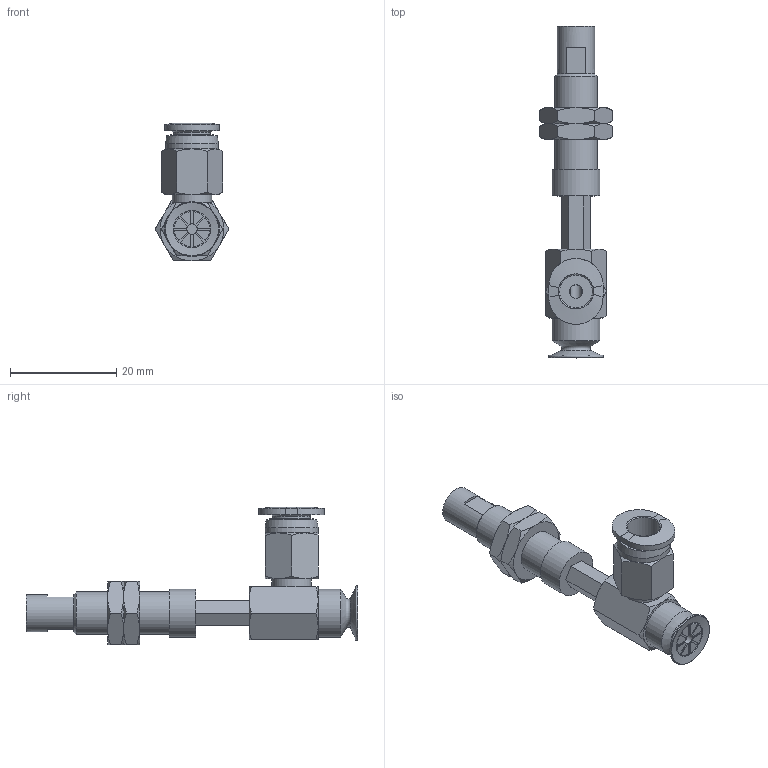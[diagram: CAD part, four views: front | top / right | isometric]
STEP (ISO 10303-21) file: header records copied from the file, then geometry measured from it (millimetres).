
FILE_DESCRIPTION(('STEP AP203'),'1');
FILE_NAME('-O.stp','2025-03-13T02:57:41',(' '),(' '),'Spatial InterOp 3D',' ',' ');
FILE_SCHEMA(('CONFIG_CONTROL_DESIGN'));
Length unit declared in the file: millimetre
Products named in the file (7): BNABPAYH-10B-10-※-O; NAPATH-10A-10--M; NAPATH-10A-10--F; Nut-10A-S; CONNECTOR-10A-10-PA; PC-C_06-M5; BPAG-10B-※
Assembly tree (7 placements, depth 2):
  BNABPAYH-10B-10-※-O
    NAPATH-10A-10--M
    NAPATH-10A-10--F
    Nut-10A-S  x2
    CONNECTOR-10A-10-PA
    PC-C_06-M5
    BPAG-10B-※
Bounding box: 13.86 x 62.5 x 25.98 mm (x, y, z)
Volume: 4331.4 mm3; surface area: 5374.9 mm2
Topology: 7 solids, 7 shells, 224 faces, 500 edges, 308 vertices
Faces by surface type: plane 104, cone 67, cylinder 33, torus 13, bspline 4, revolution 3
Full cylindrical faces by diameter (mm): 2 x2, 4 x4, 4.134 x2, 5 x2, 6 x2, 7 x3, 7.188 x2, 7.4 x1, 8 x1, 8.2 x1, 9 x2, 10 x1
Entity records: 6062 total; most frequent: CARTESIAN_POINT 1578, DIRECTION 855, ORIENTED_EDGE 780, EDGE_CURVE 390, AXIS2_PLACEMENT_3D 349, EDGE_LOOP 280, VERTEX_POINT 270, FACE_OUTER_BOUND 236
